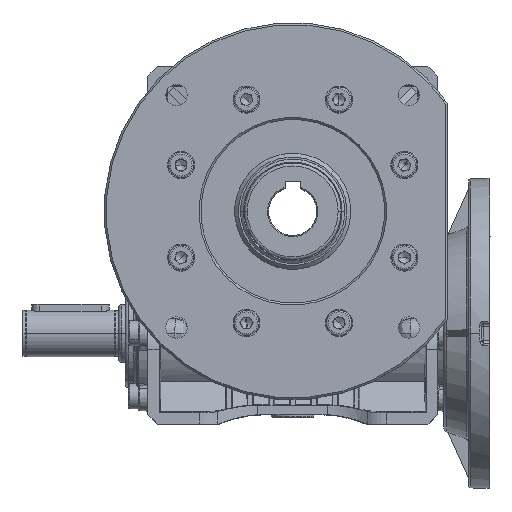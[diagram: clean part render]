
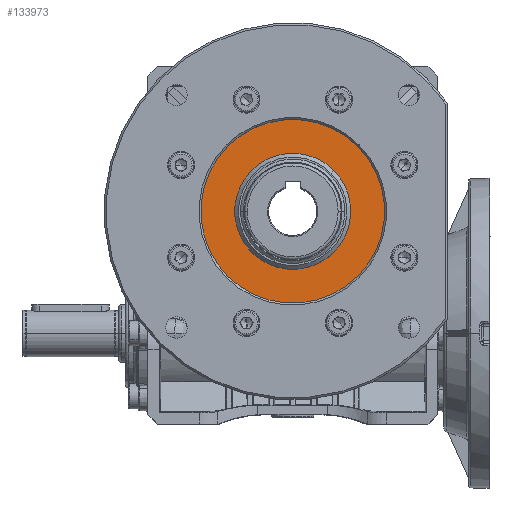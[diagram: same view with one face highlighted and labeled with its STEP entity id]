
A CAD part, top view. The second image highlights one B-rep face of the part: STEP entity #133973.
In plain terms, the highlighted planar face has unit normal (0, 0, 1).
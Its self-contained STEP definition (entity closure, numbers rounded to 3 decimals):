
#1386 = CARTESIAN_POINT ( 'NONE',  ( 0., 0., 76. ) ) ;
#1684 = EDGE_CURVE ( 'NONE', #115053, #85184, #64209, .T. ) ;
#6655 = CARTESIAN_POINT ( 'NONE',  ( 0., 0., 76. ) ) ;
#10402 = DIRECTION ( 'NONE',  ( 0., 0., -1. ) ) ;
#12290 = CARTESIAN_POINT ( 'NONE',  ( 21.213, 21.213, 76. ) ) ;
#18723 = FACE_OUTER_BOUND ( 'NONE', #112218, .T. ) ;
#19065 = DIRECTION ( 'NONE',  ( -0.707, -0.707, 0. ) ) ;
#22089 = DIRECTION ( 'NONE',  ( -0.707, -0.707, 0. ) ) ;
#23414 = EDGE_CURVE ( 'NONE', #32901, #47680, #118396, .T. ) ;
#23512 = CARTESIAN_POINT ( 'NONE',  ( -21.213, -21.213, 76. ) ) ;
#29853 = AXIS2_PLACEMENT_3D ( 'NONE', #6655, #38381, #19065 ) ;
#32901 = VERTEX_POINT ( 'NONE', #12290 ) ;
#38381 = DIRECTION ( 'NONE',  ( 0., 0., -1. ) ) ;
#40943 = AXIS2_PLACEMENT_3D ( 'NONE', #92639, #10402, #94677 ) ;
#47680 = VERTEX_POINT ( 'NONE', #23512 ) ;
#49526 = CARTESIAN_POINT ( 'NONE',  ( -34.295, -34.295, 76. ) ) ;
#53299 = ORIENTED_EDGE ( 'NONE', *, *, #23414, .T. ) ;
#58059 = EDGE_CURVE ( 'NONE', #85184, #115053, #131456, .T. ) ;
#62211 = DIRECTION ( 'NONE',  ( 0., 0., -1. ) ) ;
#62307 = DIRECTION ( 'NONE',  ( 0., 0., 1. ) ) ;
#64209 = CIRCLE ( 'NONE', #95152, 48.5 ) ;
#71353 = EDGE_LOOP ( 'NONE', ( #95129, #53299 ) ) ;
#72664 = CARTESIAN_POINT ( 'NONE',  ( 0., 0., 76. ) ) ;
#81563 = AXIS2_PLACEMENT_3D ( 'NONE', #116046, #62211, #125744 ) ;
#81782 = CARTESIAN_POINT ( 'NONE',  ( 34.295, 34.295, 76. ) ) ;
#82932 = FACE_BOUND ( 'NONE', #71353, .T. ) ;
#85184 = VERTEX_POINT ( 'NONE', #49526 ) ;
#91731 = CIRCLE ( 'NONE', #40943, 30. ) ;
#92639 = CARTESIAN_POINT ( 'NONE',  ( 0., 0., 76. ) ) ;
#94677 = DIRECTION ( 'NONE',  ( -0.707, -0.707, 0. ) ) ;
#95129 = ORIENTED_EDGE ( 'NONE', *, *, #116349, .T. ) ;
#95152 = AXIS2_PLACEMENT_3D ( 'NONE', #1386, #134835, #22089 ) ;
#111592 = AXIS2_PLACEMENT_3D ( 'NONE', #72664, #62307, #112760 ) ;
#112218 = EDGE_LOOP ( 'NONE', ( #136586, #116312 ) ) ;
#112760 = DIRECTION ( 'NONE',  ( -0.707, -0.707, 0. ) ) ;
#115053 = VERTEX_POINT ( 'NONE', #81782 ) ;
#116046 = CARTESIAN_POINT ( 'NONE',  ( 21.213, 21.213, 76. ) ) ;
#116312 = ORIENTED_EDGE ( 'NONE', *, *, #1684, .T. ) ;
#116349 = EDGE_CURVE ( 'NONE', #47680, #32901, #91731, .T. ) ;
#118396 = CIRCLE ( 'NONE', #29853, 30. ) ;
#125744 = DIRECTION ( 'NONE',  ( -0.707, -0.707, 0. ) ) ;
#131456 = CIRCLE ( 'NONE', #111592, 48.5 ) ;
#133973 = ADVANCED_FACE ( 'NONE', ( #18723, #82932 ), #136097, .F. ) ;
#134835 = DIRECTION ( 'NONE',  ( 0., 0., 1. ) ) ;
#136097 = PLANE ( 'NONE',  #81563 ) ;
#136586 = ORIENTED_EDGE ( 'NONE', *, *, #58059, .T. ) ;
